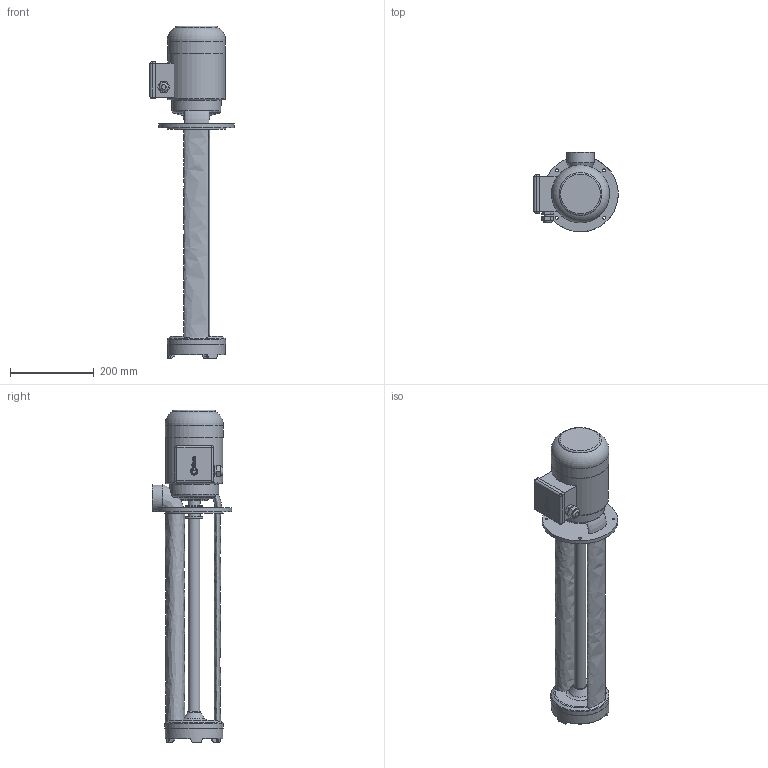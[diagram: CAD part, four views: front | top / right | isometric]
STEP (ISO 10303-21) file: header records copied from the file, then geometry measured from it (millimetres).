
FILE_DESCRIPTION(/* description */ ('Unknown'),/* implementation_level */ '2;1');
FILE_NAME(/* name */ 'EP 150-550',/* time_stamp */ '2023-03-08T16:20:30+03:00',/* author */ ('Unknown'),/* organization */ ('Unknown'),/* preprocessor_version */ 'ST-DEVELOPER v16.7',/* originating_system */ 'DEX',/* authorisation */ $);
FILE_SCHEMA (('AUTOMOTIVE_DESIGN {1 0 10303 214 3 1 1}'));
Length unit declared in the file: millimetre
Products named in the file (1): EP 150-550
Bounding box: 201.5 x 190 x 792.36 mm (x, y, z)
Volume: 6125942.8 mm3; surface area: 440476.3 mm2
Topology: 1 solids, 1 shells, 268 faces, 678 edges, 435 vertices
Faces by surface type: plane 91, bspline 81, cylinder 56, torus 26, cone 14
Full cylindrical faces by diameter (mm): 7 x4, 17 x1, 21.5 x1, 28 x1, 29 x3, 30 x1, 42 x2, 44 x1, 48 x1, 62 x1, 94 x1, 116.969 x1, 136.473 x1, 137 x1, 137.994 x1, 139 x1, 140 x1, 180 x1
Entity records: 11389 total; most frequent: CARTESIAN_POINT 5687, ORIENTED_EDGE 1212, DIRECTION 973, EDGE_CURVE 606, VERTEX_POINT 419, AXIS2_PLACEMENT_3D 372, EDGE_LOOP 363, FACE_BOUND 363
